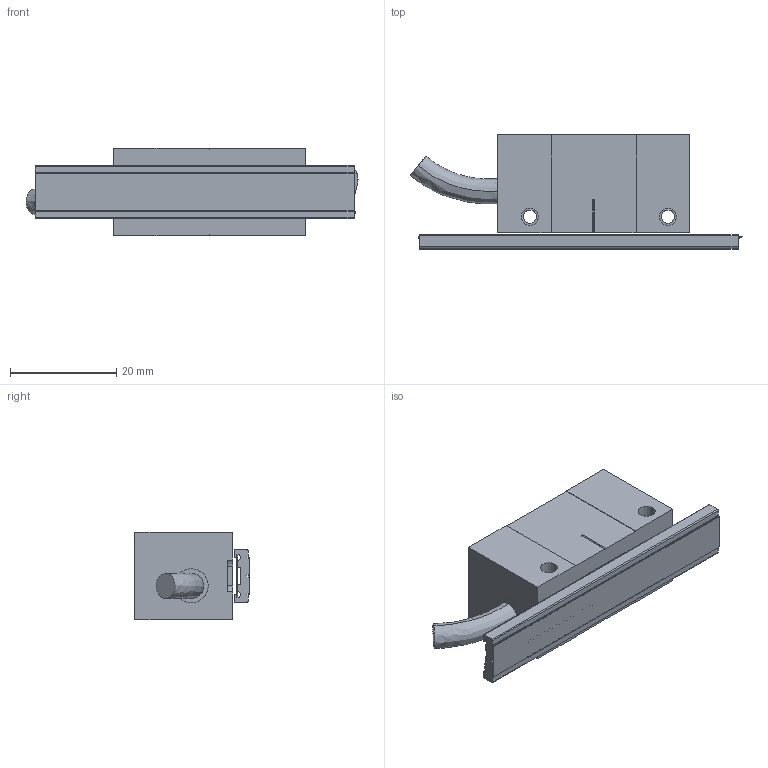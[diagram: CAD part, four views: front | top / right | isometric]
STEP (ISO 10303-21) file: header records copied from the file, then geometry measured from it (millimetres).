
FILE_DESCRIPTION (( 'STEP AP203' ), '1' );
FILE_NAME ('绝对值直线栅尺组合导轨形式.STEP', '2024-05-06T04:54:47', ( '' ), ( '' ), 'SwSTEP 2.0', 'SolidWorks 2024', '' );
FILE_SCHEMA (( 'CONFIG_CONTROL_DESIGN' ));
Length unit declared in the file: millimetre
Products named in the file (4): 绝对值外形_3; 绝对值栅尺8_1无胶; 8mm 钢栅尺 导轨; 绝对值直线栅尺组合导轨形式
Assembly tree (3 placements, depth 2):
  绝对值直线栅尺组合导轨形式
    绝对值外形_3
    8mm 钢栅尺 导轨
    绝对值栅尺8_1无胶
Bounding box: 62.49 x 21.5 x 16.5 mm (x, y, z)
Volume: 11765.9 mm3; surface area: 8606.6 mm2
Topology: 7 solids, 7 shells, 165 faces, 429 edges, 283 vertices
Faces by surface type: plane 93, cylinder 64, cone 4, bspline 4
Entity records: 5791 total; most frequent: CARTESIAN_POINT 1241, DIRECTION 879, ORIENTED_EDGE 850, EDGE_CURVE 425, AXIS2_PLACEMENT_3D 297, VECTOR 285, LINE 285, VERTEX_POINT 283
